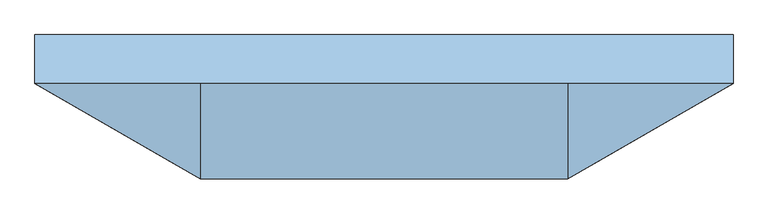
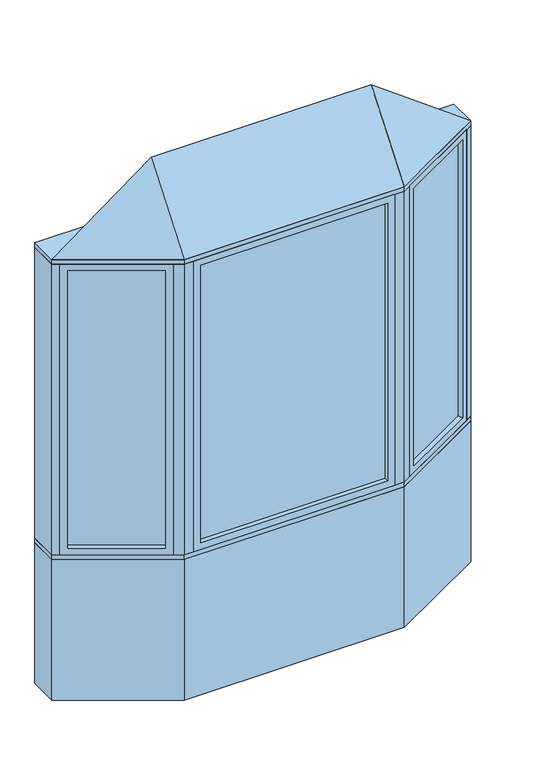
"""IFC4 building model written with IfcOpenShell, lengths in millimetres: window geometry, Pollard_Windows_Tudor Casement Bows and Bays : AML-BAY 30 AFR0516-12-500."""

from ifc_helpers import new_model, si_unit, frame, origin, origin_with_axes, place, context, project, spatial, polyline, outline, extrude, faceted_brep, source, transform, mapped, element, save


def window_b05a3061(model_context):
    return source(origin(), model_context, "Body", "SolidModel", [
        extrude(outline(polyline([(1026.612102, -82.0482469), (623.7320119, -314.6511754), (621.1920119, -310.2517664), (1024.072102, -77.6488379), (1026.612102, -82.0482469)])), frame((0.0, 0.0, 823.1628), z_axis=(0.0, 0.0, 1.0), x_axis=(1.0, 0.0, 0.0)), (0.0, 0.0, 1.0), 1553.6704),
        faceted_brep([(1015.6135794, -88.3982469, 835.8628), (1028.3135794, -110.3952922, 835.8628), (1028.3135794, -110.3952922, 2364.1332), (1015.6135794, -88.3982469, 2364.1332), (1024.072102, -77.6488379, 823.1628), (1026.612102, -82.0482469, 823.1628), (1026.612102, -82.0482469, 2376.8332), (1024.072102, -77.6488379, 2376.8332), (1000.3735794, -62.0017926, 835.8628), (1013.0735794, -83.9988379, 835.8628), (1013.0735794, -83.9988379, 2364.1332), (1000.3735794, -62.0017926, 2364.1332), (1059.3734073, -92.4628922, 799.998), (1031.4334073, -44.0693926, 799.998), (1031.4334073, -44.0693926, 2399.998), (1059.3734073, -92.4628922, 2399.998), (647.4305346, -330.2982207, 2364.1332), (634.7305346, -308.3011754, 2364.1332), (623.7320119, -314.6511754, 2376.8332), (621.1920119, -310.2517664, 2376.8332), (632.1905346, -303.9017664, 2364.1332), (619.4905346, -281.9047211, 2364.1332), (588.4307067, -299.8371211, 2399.998), (616.3707067, -348.2306207, 2399.998), (647.4305346, -330.2982207, 835.8628), (634.7305346, -308.3011754, 835.8628), (623.7320119, -314.6511754, 823.1628), (621.1920119, -310.2517664, 823.1628), (632.1905346, -303.9017664, 835.8628), (619.4905346, -281.9047211, 835.8628), (588.4307067, -299.8371211, 799.998), (616.3707067, -348.2306207, 799.998)], [[[0, 1, 2, 3]], [[4, 5, 6, 7]], [[8, 9, 10, 11]], [[12, 13, 14, 15]], [[3, 2, 16, 17]], [[7, 6, 18, 19]], [[11, 10, 20, 21]], [[15, 14, 22, 23]], [[17, 16, 24, 25]], [[19, 18, 26, 27]], [[21, 20, 28, 29]], [[23, 22, 30, 31]], [[25, 24, 1, 0]], [[5, 26, 18, 6], [3, 17, 25, 0]], [[27, 26, 5, 4]], [[7, 19, 27, 4], [9, 28, 20, 10]], [[29, 28, 9, 8]], [[13, 30, 22, 14], [11, 21, 29, 8]], [[31, 30, 13, 12]], [[15, 23, 31, 12], [1, 24, 16, 2]]]),
        extrude(outline(polyline([(-623.7320119, -314.6511754), (-1026.612102, -82.0482469), (-1024.072102, -77.6488379), (-621.1920119, -310.2517664), (-623.7320119, -314.6511754)])), frame((0.0, 0.0, 823.1628), z_axis=(0.0, 0.0, 1.0), x_axis=(1.0, 0.0, 0.0)), (0.0, 0.0, 1.0), 1553.6704),
        faceted_brep([(-632.1905346, -303.9017664, 2364.1332), (-619.4905346, -281.9047211, 2364.1332), (-619.4905346, -281.9047211, 835.8628), (-632.1905346, -303.9017664, 835.8628), (-623.7320119, -314.6511754, 2376.8332), (-621.1920119, -310.2517664, 2376.8332), (-621.1920119, -310.2517664, 823.1628), (-623.7320119, -314.6511754, 823.1628), (-647.4305346, -330.2982207, 2364.1332), (-634.7305346, -308.3011754, 2364.1332), (-634.7305346, -308.3011754, 835.8628), (-647.4305346, -330.2982207, 835.8628), (-588.4307067, -299.8371211, 2399.998), (-616.3707067, -348.2306207, 2399.998), (-616.3707067, -348.2306207, 799.998), (-588.4307067, -299.8371211, 799.998), (-1000.3735794, -62.0017926, 835.8628), (-1013.0735794, -83.9988379, 835.8628), (-1024.072102, -77.6488379, 823.1628), (-1026.612102, -82.0482469, 823.1628), (-1015.6135794, -88.3982469, 835.8628), (-1028.3135794, -110.3952922, 835.8628), (-1059.3734073, -92.4628922, 799.998), (-1031.4334073, -44.0693926, 799.998), (-1000.3735794, -62.0017926, 2364.1332), (-1013.0735794, -83.9988379, 2364.1332), (-1024.072102, -77.6488379, 2376.8332), (-1026.612102, -82.0482469, 2376.8332), (-1015.6135794, -88.3982469, 2364.1332), (-1028.3135794, -110.3952922, 2364.1332), (-1059.3734073, -92.4628922, 2399.998), (-1031.4334073, -44.0693926, 2399.998)], [[[0, 1, 2, 3]], [[4, 5, 6, 7]], [[8, 9, 10, 11]], [[12, 13, 14, 15]], [[3, 2, 16, 17]], [[7, 6, 18, 19]], [[11, 10, 20, 21]], [[15, 14, 22, 23]], [[17, 16, 24, 25]], [[19, 18, 26, 27]], [[21, 20, 28, 29]], [[23, 22, 30, 31]], [[15, 23, 31, 12], [1, 24, 16, 2]], [[25, 24, 1, 0]], [[5, 26, 18, 6], [3, 17, 25, 0]], [[27, 26, 5, 4]], [[7, 19, 27, 4], [9, 28, 20, 10]], [[29, 28, 9, 8]], [[13, 30, 22, 14], [11, 21, 29, 8]], [[31, 30, 13, 12]]]),
        extrude(outline(polyline([(499.9046365, -347.8306207), (-499.9046365, -347.8306207), (-499.9046365, -342.7506207), (499.9046365, -342.7506207), (499.9046365, -347.8306207)])), frame((0.0, 0.0, 823.1628), z_axis=(0.0, 0.0, 1.0), x_axis=(1.0, 0.0, 0.0)), (0.0, 0.0, 1.0), 1553.6704),
        faceted_brep([(487.2046365, -347.8306207, 835.8628), (487.2046365, -373.2306207, 835.8628), (487.2046365, -373.2306207, 2364.1332), (487.2046365, -347.8306207, 2364.1332), (499.9046365, -342.7506207, 823.1628), (499.9046365, -347.8306207, 823.1628), (499.9046365, -347.8306207, 2376.8332), (499.9046365, -342.7506207, 2376.8332), (487.2046365, -317.3506207, 835.8628), (487.2046365, -342.7506207, 835.8628), (487.2046365, -342.7506207, 2364.1332), (487.2046365, -317.3506207, 2364.1332), (523.0694365, -373.2306207, 799.998), (523.0694365, -317.3506207, 799.998), (523.0694365, -317.3506207, 2399.998), (523.0694365, -373.2306207, 2399.998), (-487.2046365, -373.2306207, 2364.1332), (-487.2046365, -347.8306207, 2364.1332), (-499.9046365, -347.8306207, 2376.8332), (-499.9046365, -342.7506207, 2376.8332), (-487.2046365, -342.7506207, 2364.1332), (-487.2046365, -317.3506207, 2364.1332), (-523.0694365, -317.3506207, 2399.998), (-523.0694365, -373.2306207, 2399.998), (-487.2046365, -373.2306207, 835.8628), (-487.2046365, -347.8306207, 835.8628), (-499.9046365, -347.8306207, 823.1628), (-499.9046365, -342.7506207, 823.1628), (-487.2046365, -342.7506207, 835.8628), (-487.2046365, -317.3506207, 835.8628), (-523.0694365, -317.3506207, 799.998), (-523.0694365, -373.2306207, 799.998)], [[[0, 1, 2, 3]], [[4, 5, 6, 7]], [[8, 9, 10, 11]], [[12, 13, 14, 15]], [[3, 2, 16, 17]], [[7, 6, 18, 19]], [[11, 10, 20, 21]], [[15, 14, 22, 23]], [[17, 16, 24, 25]], [[19, 18, 26, 27]], [[21, 20, 28, 29]], [[23, 22, 30, 31]], [[15, 23, 31, 12], [1, 24, 16, 2]], [[25, 24, 1, 0]], [[5, 26, 18, 6], [3, 17, 25, 0]], [[27, 26, 5, 4]], [[7, 19, 27, 4], [9, 28, 20, 10]], [[29, 28, 9, 8]], [[13, 30, 22, 14], [11, 21, 29, 8]], [[31, 30, 13, 12]]]),
        faceted_brep([(1090.0, -74.7806207, 2425.398), (573.0694365, -373.2306207, 2425.398), (-573.0694365, -373.2306207, 2425.398), (-1090.0, -74.7806207, 2425.398), (-573.0694365, -74.7806207, 2806.398), (573.0694365, -74.7806207, 2806.398)], [[[0, 1, 2, 3]], [[3, 2, 4]], [[2, 1, 5, 4]], [[1, 0, 5]], [[0, 3, 4, 5]]]),
        extrude(outline(polyline([(-1090.0, 77.6193793), (1090.0, 77.6193793), (1090.0, -74.7806207), (573.0694365, -373.2306207), (-573.0694365, -373.2306207), (-1090.0, -74.7806207), (-1090.0, 77.6193793)])), frame((0.0, 0.0, 2399.998), z_axis=(0.0, 0.0, 1.0), x_axis=(1.0, 0.0, 0.0)), (0.0, 0.0, 1.0), 25.4),
        extrude(outline(polyline([(-1090.0, -74.7806207), (-1090.0, 77.6193793), (-1049.1645431, 77.6193793), (-1049.1645431, -74.7806207), (-1059.3734073, -92.4628922), (-1090.0, -74.7806207)])), frame((0.0, 0.0, 799.998), z_axis=(0.0, 0.0, 1.0), x_axis=(1.0, 0.0, 0.0)), (0.0, 0.0, 1.0), 1600.0),
        extrude(outline(polyline([(1090.0, 77.6193793), (1090.0, -74.7806207), (1059.3734073, -92.4628922), (1049.1645431, -74.7806207), (1049.1645431, 77.6193793), (1090.0, 77.6193793)])), frame((0.0, 0.0, 799.998), z_axis=(0.0, 0.0, 1.0), x_axis=(1.0, 0.0, 0.0)), (0.0, 0.0, 1.0), 1600.0),
        extrude(outline(polyline([(573.0694365, -373.2306207), (523.0694365, -373.2306207), (523.0694365, -323.2306207), (559.6719769, -323.2306207), (591.3707067, -304.9293505), (616.3707067, -348.2306207), (573.0694365, -373.2306207)])), frame((0.0, 0.0, 799.998), z_axis=(0.0, 0.0, 1.0), x_axis=(1.0, 0.0, 0.0)), (0.0, 0.0, 1.0), 1600.0),
        extrude(outline(polyline([(-573.0694365, -373.2306207), (-616.3707067, -348.2306207), (-591.3707067, -304.9293505), (-559.6719769, -323.2306207), (-523.0694365, -323.2306207), (-523.0694365, -373.2306207), (-573.0694365, -373.2306207)])), frame((0.0, 0.0, 799.998), z_axis=(0.0, 0.0, 1.0), x_axis=(1.0, 0.0, 0.0)), (0.0, 0.0, 1.0), 1600.0),
        extrude(outline(polyline([(-573.0694365, -373.2306207), (-1090.0, -74.7806207), (-1090.0, 77.6193793), (-1049.1645431, 77.6193793), (-532.2339796, -220.8306207), (532.2339796, -220.8306207), (1049.1645431, 77.6193793), (1090.0, 77.6193793), (1090.0, -74.7806207), (573.0694365, -373.2306207), (-573.0694365, -373.2306207)])), frame((0.0, 0.0, 774.598), z_axis=(0.0, 0.0, 1.0), x_axis=(1.0, 0.0, 0.0)), (0.0, 0.0, 1.0), 25.4),
        extrude(outline(polyline([(-1090.0, -74.7806207), (-1090.0, 77.6193793), (-1049.1645431, 77.6193793), (-532.2339796, -220.8306207), (532.2339796, -220.8306207), (1049.1645431, 77.6193793), (1090.0, 77.6193793), (1090.0, -74.7806207), (573.0694365, -373.2306207), (-573.0694365, -373.2306207), (-1090.0, -74.7806207)])), origin_with_axes(), (0.0, 0.0, 1.0), 774.598),
    ])


if __name__ == "__main__":
    model = new_model("IFC4")
    model_context = context("Model", 3, world=origin())
    ifc_project = project(units=[si_unit("LENGTHUNIT", "METRE", prefix="MILLI")], contexts=[model_context])
    site = spatial("IfcSite", under=ifc_project)
    building = spatial("IfcBuilding", under=site)
    placement = place(None, origin())
    window_shape = window_b05a3061(model_context)
    element("IfcWindow", 1, ObjectType="Pollard_Windows_Tudor Casement Bows and Bays : AML-BAY 30 AFR0516-12-500", at=placement, inside=building, context=model_context, shape_type="MappedRepresentation", body=[
        mapped(window_shape, transform((0.0, 0.0, 0.0), x_axis=(1.0, 0.0, 0.0), y_axis=(0.0, 1.0, 0.0), z_axis=(0.0, 0.0, 1.0))),
    ])
    save(model, "model.ifc")
